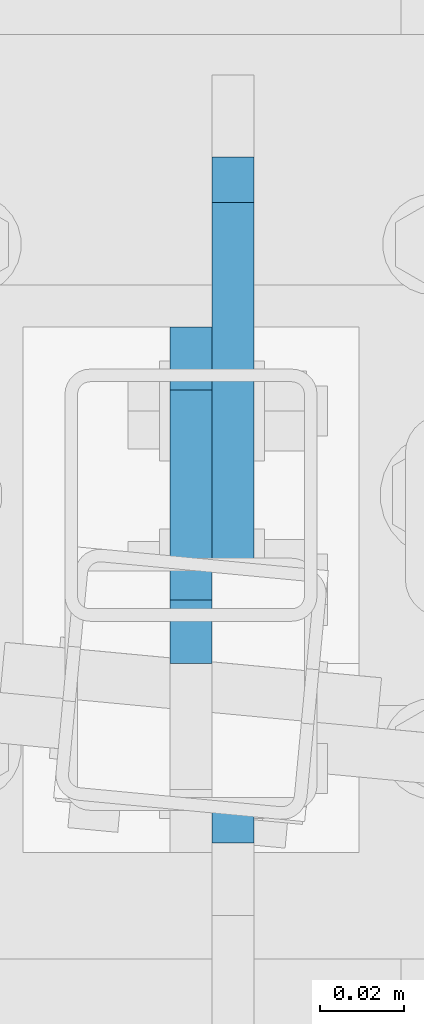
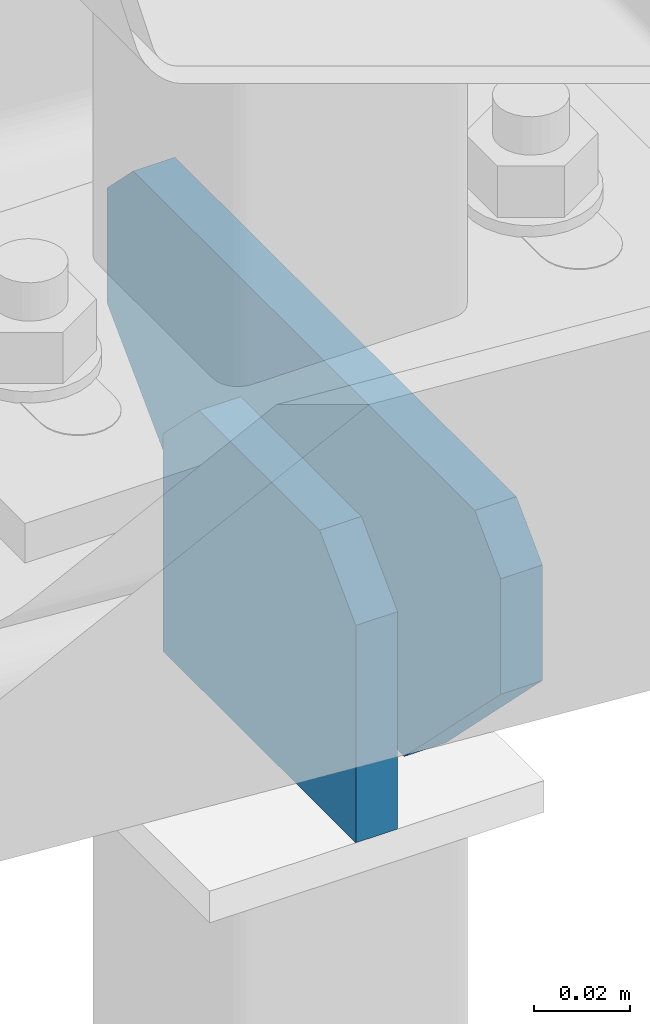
# One storey, part 154 of 271: 2 plates, 2 elements without a shape of their own.
"""IFC2X3 building model written with IfcOpenShell, lengths in millimetres."""

from ifc_helpers import new_model, si_unit, frame, origin_with_axes, place, context, subcontext, project, spatial, polyline, outline, extrude, material, type_object, element, aggregate, save


model = new_model("IFC2X3")

# Units and contexts
model_context = context("Model", 3, precision=1e-05, world=origin_with_axes())
body_context = subcontext(model_context, "Body", "Model", "MODEL_VIEW")
ifc_project = project(units=[si_unit("LENGTHUNIT", "METRE", prefix="MILLI"), si_unit("AREAUNIT", "SQUARE_METRE"), si_unit("VOLUMEUNIT", "CUBIC_METRE"), si_unit("MASSUNIT", "GRAM", prefix="KILO"), si_unit("TIMEUNIT", "SECOND"), si_unit("PLANEANGLEUNIT", "RADIAN"), si_unit("SOLIDANGLEUNIT", "STERADIAN"), si_unit("THERMODYNAMICTEMPERATUREUNIT", "DEGREE_CELSIUS"), si_unit("LUMINOUSINTENSITYUNIT", "LUMEN")], contexts=[model_context])

# Site, building, storey
site_placement = place(None, origin_with_axes())
site = spatial("IfcSite", under=ifc_project, at=site_placement, Name="Undefined", CompositionType="ELEMENT")
building_placement = place(site_placement, origin_with_axes())
building = spatial("IfcBuilding", under=site, at=building_placement, Name="Undefined", CompositionType="ELEMENT")
storey_placement = place(building_placement, origin_with_axes())
storey = spatial("IfcBuildingStorey", under=building, at=storey_placement, Name="Undefined", CompositionType="ELEMENT", Elevation=0.0)

# Assembly, plate
assembly_1_placement = place(storey_placement, origin_with_axes())
assembly_1 = element("IfcElementAssembly", 1, at=assembly_1_placement, inside=storey, AssemblyPlace="NOTDEFINED", PredefinedType="RIGID_FRAME")
ifc_material = material(Name="STEEL/S355JR")
plate_type_1 = type_object("IfcPlateType", Name="BL10*70", PredefinedType="NOTDEFINED")
plate_1_placement = place(assembly_1_placement, frame((3168.37568709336, 4010.32498425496, 19956.399999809), z_axis=(-1.0, 0.0, 1.38777878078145e-17), x_axis=(0.0, 0.707106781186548, 0.707106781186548)))
plate_1 = element("IfcPlate", 2, at=plate_1_placement, type_object=plate_type_1, material=ifc_material, Name="BLACHA", ObjectType="BL10*70", context=body_context, shape_type="SweptSolid", body=[
    extrude(outline(polyline([(0.0, 0.0), (21.2132034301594, 1.09139364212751e-11), (56.5685424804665, 35.3553390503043), (56.568542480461, 56.5685424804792), (17.6776695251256, 95.4594192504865), (-38.890872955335, 38.8908729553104), (0.0, 0.0)])), frame((0.0, 0.0, -5.0), z_axis=(0.0, 0.0, 1.0), x_axis=(1.0, 0.0, 0.0)), (0.0, 0.0, 1.0), 10.0),
])
aggregate(assembly_1, [plate_1])

assembly_2_placement = place(storey_placement, origin_with_axes())
assembly_2 = element("IfcElementAssembly", 3, at=assembly_2_placement, inside=storey, AssemblyPlace="NOTDEFINED", PredefinedType="RIGID_FRAME")
plate_type_2 = type_object("IfcPlateType", Name="BL10*80", PredefinedType="NOTDEFINED")
plate_2_placement = place(assembly_2_placement, frame((3178.37568709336, 4130.77320147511, 20001.399999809), z_axis=(-1.0, 0.0, 1.38777878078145e-17), x_axis=(0.0, 0.0, -1.0)))
plate_2 = element("IfcPlate", 4, at=plate_2_placement, type_object=plate_type_2, material=ifc_material, Name="BLACHA", ObjectType="BL10*80", context=body_context, shape_type="SweptSolid", body=[
    extrude(outline(polyline([(0.0, 10.7716979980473), (10.7716979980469, 4.44089209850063e-13), (40.0, -1.24344978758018e-14), (80.0, 40.0), (80.0, 123.184783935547), (40.0, 163.184783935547), (10.7716979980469, 163.184783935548), (0.0, 152.413085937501), (0.0, 10.7716979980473)])), frame((0.0, 0.0, -5.0), z_axis=(0.0, 0.0, 1.0), x_axis=(1.0, 0.0, 0.0)), (0.0, 0.0, 1.0), 10.0),
])
aggregate(assembly_2, [plate_2])

save(model, "model.ifc")
